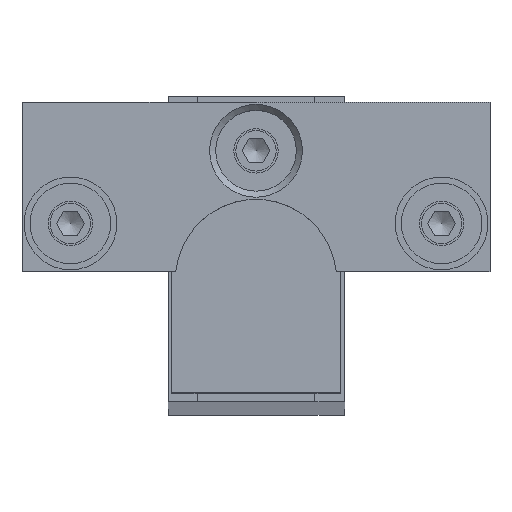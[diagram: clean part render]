
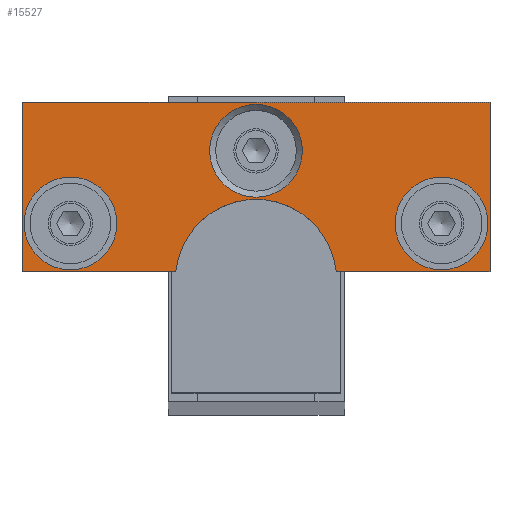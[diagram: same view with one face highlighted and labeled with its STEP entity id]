
A CAD part, top view. The second image highlights one B-rep face of the part: STEP entity #15527.
In plain terms, the highlighted planar face has unit normal (0, 0, 1).
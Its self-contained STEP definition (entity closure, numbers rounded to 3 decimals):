
#281=FACE_BOUND('',#2269,.T.);
#282=FACE_BOUND('',#2270,.T.);
#283=FACE_BOUND('',#2271,.T.);
#478=PLANE('',#17072);
#1306=FACE_OUTER_BOUND('',#2268,.T.);
#2268=EDGE_LOOP('',(#11656,#11657,#11658,#11659,#11660,#11661));
#2269=EDGE_LOOP('',(#11662));
#2270=EDGE_LOOP('',(#11663));
#2271=EDGE_LOOP('',(#11664));
#3319=LINE('',#28795,#3891);
#3320=LINE('',#28797,#3892);
#3321=LINE('',#28799,#3893);
#3322=LINE('',#28803,#3894);
#3323=LINE('',#28804,#3895);
#3891=VECTOR('',#20615,10.);
#3892=VECTOR('',#20616,10.);
#3893=VECTOR('',#20617,10.);
#3894=VECTOR('',#20620,10.);
#3895=VECTOR('',#20621,10.);
#4775=CIRCLE('',#17070,5.75);
#4777=CIRCLE('',#17073,10.);
#4778=CIRCLE('',#17074,5.75);
#4779=CIRCLE('',#17075,5.75);
#6388=VERTEX_POINT('',#28787);
#6390=VERTEX_POINT('',#28793);
#6391=VERTEX_POINT('',#28794);
#6392=VERTEX_POINT('',#28796);
#6393=VERTEX_POINT('',#28798);
#6394=VERTEX_POINT('',#28800);
#6395=VERTEX_POINT('',#28802);
#6396=VERTEX_POINT('',#28805);
#6397=VERTEX_POINT('',#28807);
#8359=EDGE_CURVE('',#6388,#6388,#4775,.T.);
#8362=EDGE_CURVE('',#6390,#6391,#3319,.T.);
#8363=EDGE_CURVE('',#6391,#6392,#3320,.T.);
#8364=EDGE_CURVE('',#6392,#6393,#3321,.T.);
#8365=EDGE_CURVE('',#6393,#6394,#4777,.T.);
#8366=EDGE_CURVE('',#6394,#6395,#3322,.T.);
#8367=EDGE_CURVE('',#6395,#6390,#3323,.T.);
#8368=EDGE_CURVE('',#6396,#6396,#4778,.T.);
#8369=EDGE_CURVE('',#6397,#6397,#4779,.T.);
#11656=ORIENTED_EDGE('',*,*,#8362,.T.);
#11657=ORIENTED_EDGE('',*,*,#8363,.T.);
#11658=ORIENTED_EDGE('',*,*,#8364,.T.);
#11659=ORIENTED_EDGE('',*,*,#8365,.T.);
#11660=ORIENTED_EDGE('',*,*,#8366,.T.);
#11661=ORIENTED_EDGE('',*,*,#8367,.T.);
#11662=ORIENTED_EDGE('',*,*,#8368,.F.);
#11663=ORIENTED_EDGE('',*,*,#8369,.F.);
#11664=ORIENTED_EDGE('',*,*,#8359,.F.);
#15527=ADVANCED_FACE('',(#1306,#281,#282,#283),#478,.T.);
#17070=AXIS2_PLACEMENT_3D('',#28788,#20608,#20609);
#17072=AXIS2_PLACEMENT_3D('',#28792,#20613,#20614);
#17073=AXIS2_PLACEMENT_3D('',#28801,#20618,#20619);
#17074=AXIS2_PLACEMENT_3D('',#28806,#20622,#20623);
#17075=AXIS2_PLACEMENT_3D('',#28808,#20624,#20625);
#20608=DIRECTION('center_axis',(0.,0.,
1.));
#20609=DIRECTION('ref_axis',(-1.,0.,0.));
#20613=DIRECTION('center_axis',(0.,0.,
1.));
#20614=DIRECTION('ref_axis',(1.,0.,0.));
#20615=DIRECTION('',(-1.,0.,0.));
#20616=DIRECTION('',(0.,-1.,0.));
#20617=DIRECTION('',(1.,0.,0.));
#20618=DIRECTION('center_axis',(0.,0.,
-1.));
#20619=DIRECTION('ref_axis',(0.995,0.1,0.));
#20620=DIRECTION('',(1.,0.,0.));
#20621=DIRECTION('',(0.,1.,0.));
#20622=DIRECTION('center_axis',(0.,0.,
1.));
#20623=DIRECTION('ref_axis',(-1.,0.,0.));
#20624=DIRECTION('center_axis',(0.,0.,
1.));
#20625=DIRECTION('ref_axis',(-1.,0.,0.));
#28787=CARTESIAN_POINT('',(39.65,22.,536.));
#28788=CARTESIAN_POINT('Origin',(33.9,22.,536.));
#28792=CARTESIAN_POINT('Origin',(10.9,27.153,536.));
#28793=CARTESIAN_POINT('',(39.9,37.,536.));
#28794=CARTESIAN_POINT('',(-18.1,37.,536.));
#28795=CARTESIAN_POINT('',(-18.1,37.,536.));
#28796=CARTESIAN_POINT('',(-18.1,16.,536.));
#28797=CARTESIAN_POINT('',(-18.1,16.,536.));
#28798=CARTESIAN_POINT('',(0.95,16.,536.));
#28799=CARTESIAN_POINT('',(0.95,16.,536.));
#28800=CARTESIAN_POINT('',(20.85,16.,536.));
#28801=CARTESIAN_POINT('Origin',(10.9,15.,536.));
#28802=CARTESIAN_POINT('',(39.9,16.,536.));
#28803=CARTESIAN_POINT('',(39.9,16.,536.));
#28804=CARTESIAN_POINT('',(39.9,37.,536.));
#28805=CARTESIAN_POINT('',(16.65,31.,536.));
#28806=CARTESIAN_POINT('Origin',(10.9,31.,536.));
#28807=CARTESIAN_POINT('',(-6.35,22.,536.));
#28808=CARTESIAN_POINT('Origin',(-12.1,22.,536.));
